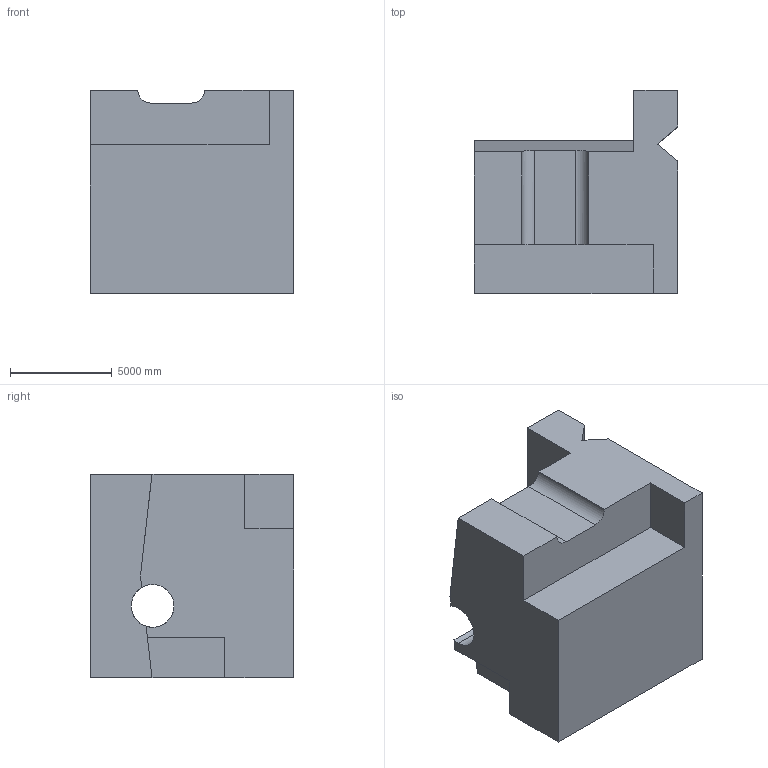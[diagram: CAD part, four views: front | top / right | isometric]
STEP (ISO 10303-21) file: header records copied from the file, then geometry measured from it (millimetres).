
FILE_DESCRIPTION (( 'STEP AP203' ), '1' );
FILE_NAME ('137.STEP', '2022-08-31T11:50:07', ( 'user' ), ( '' ), 'SwSTEP 2.0', 'SolidWorks 2021', '' );
FILE_SCHEMA (( 'CONFIG_CONTROL_DESIGN' ));
Length unit declared in the file: centimetre
Products named in the file (1): 137
Bounding box: 10000 x 10000 x 10000 mm (x, y, z)
Volume: 653520511416.4 mm3; surface area: 622187618.5 mm2
Topology: 1 solids, 1 shells, 29 faces, 84 edges, 56 vertices
Faces by surface type: plane 23, cylinder 6
Entity records: 1030 total; most frequent: CARTESIAN_POINT 191, ORIENTED_EDGE 168, DIRECTION 148, EDGE_CURVE 84, VECTOR 66, LINE 66, VERTEX_POINT 56, AXIS2_PLACEMENT_3D 41
